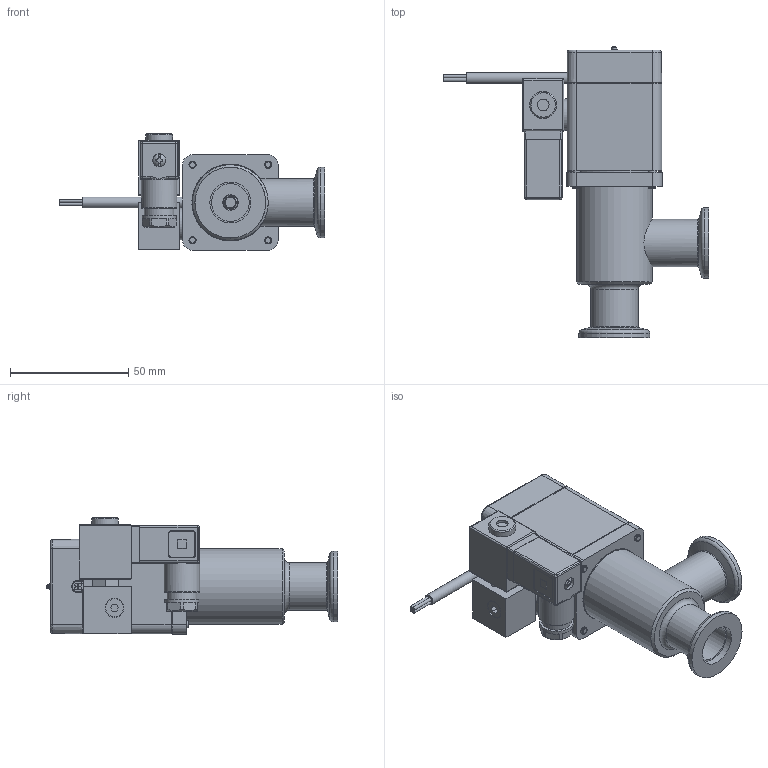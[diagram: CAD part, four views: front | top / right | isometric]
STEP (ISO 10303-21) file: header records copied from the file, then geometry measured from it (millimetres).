
FILE_DESCRIPTION(/* description */ (''),/* implementation_level */ '2;1');
FILE_NAME(/* name */ '1195545568_203.stp',/* time_stamp */ '2013-10-23T09:07:40+02:00',/* author */ (''),/* organization */ (''),/* preprocessor_version */ 'ST-DEVELOPER v11',/* originating_system */ 'SIEMENS PLM Software NX 7.5',/* authorisation */ '');
FILE_SCHEMA (('AP203_CONFIGURATION_CONTROLLED_3D_DESIGN_OF_MECHANICAL_PARTS_AND_ASSEMBLIES_MIM_LF'));
Length unit declared in the file: millimetre
Products named in the file (18): 467882; 437235; 236208.2; 233364; 239888_6.1; 236204_1.1; 245709.2; 245708.5; 245707.4; 244091.2; 243880.7; 244224.1; 244168.6; 402885_NX-ARRAGMNTLAGEMELDERZEICHNUNG; 245706.10; N-8501-400.2_MODELNX-ARRAGMNTArrangement 1; 443457; 323135
Assembly tree (22 placements, depth 4):
  323135
    244168.6
    244224.1  x4
    243880.7
    443457
      244091.2
      N-8501-400.2_MODELNX-ARRAGMNTArrangement 1
        437235
        467882
    245706.10
      245707.4
      245708.5
      245709.2
    402885_NX-ARRAGMNTLAGEMELDERZEICHNUNG
      236204_1.1  x2
      239888_6.1
      233364
      236208.2  x2
Bounding box: 112.43 x 123.1 x 49.3 mm (x, y, z)
Volume: 96629.7 mm3; surface area: 66679.5 mm2
Topology: 27 solids, 28 shells, 854 faces, 2079 edges, 1354 vertices
Faces by surface type: plane 506, cylinder 207, cone 89, bspline 28, torus 17, sphere 7
Full cylindrical faces by diameter (mm): 1.4 x8, 2 x8, 2.2 x4, 2.3 x1, 2.36 x4, 2.4 x4, 2.5 x6, 2.8 x1, 3 x20, 3.4 x4, 4 x2, 4.2 x1, 4.22 x1, 4.6 x1, 4.7 x3, 4.8 x1, 5 x5, 5.5 x5, 5.6 x2, 6 x4, 6.013 x2, 6.5 x4, 7.4 x1, 7.6 x1, 7.9 x1, 8 x1, 8.85 x1, 10.2 x1, 11.3 x1, 11.4 x1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
Entity records: 25765 total; most frequent: CARTESIAN_POINT 5277, DIRECTION 3526, ORIENTED_EDGE 3232, EDGE_CURVE 1616, AXIS2_PLACEMENT_3D 1271, VERTEX_POINT 1167, EDGE_LOOP 1061, LINE 984
